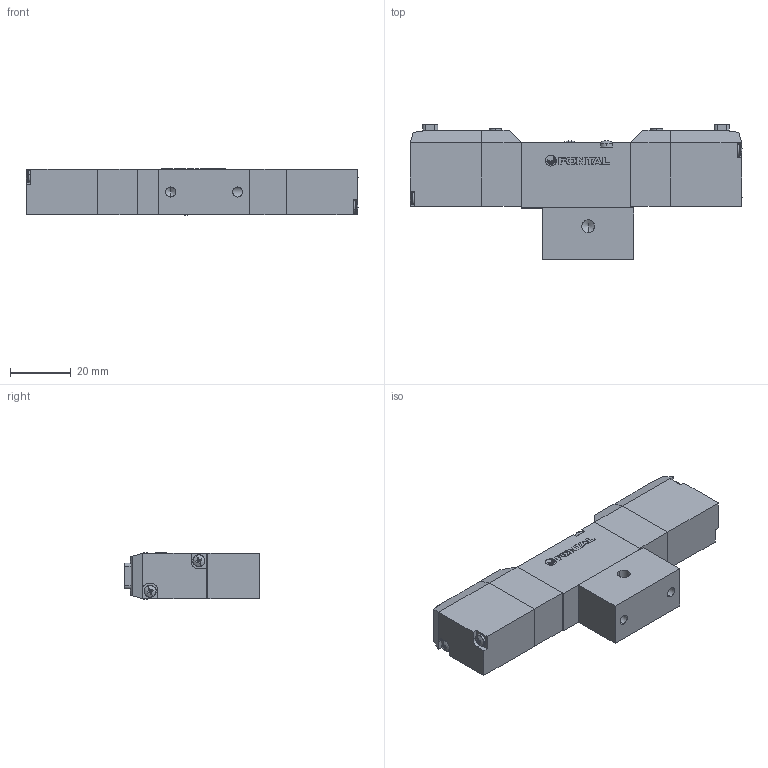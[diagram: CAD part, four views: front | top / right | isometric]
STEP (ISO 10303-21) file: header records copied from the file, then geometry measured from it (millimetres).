
FILE_DESCRIPTION (( 'STEP AP203' ), '1' );
FILE_NAME ('PCD345#-M5-#-U-#.STEP', '2016-02-04T03:46:27', ( 'Sam Lin' ), ( '' ), 'SwSTEP 2.0', 'SolidWorks 2013', '' );
FILE_SCHEMA (( 'CONFIG_CONTROL_DESIGN' ));
Length unit declared in the file: metre
Products named in the file (9): PC5-5; PC-MARK; PC5-6; PC5-4; ISO 7045 - M2 x 10; ISO 7045 - M2.5 x 25; PC5-9-345-U; PCD345#-M5-#-U-#; PC5-1
Assembly tree (15 placements, depth 2):
  PCD345#-M5-#-U-#
    PC5-1
    PC5-5  x2
    PC-MARK
    PC5-6  x2
    PC5-4  x2
    ISO 7045 - M2 x 10  x4
    ISO 7045 - M2.5 x 25  x2
    PC5-9-345-U
Bounding box: 109.14 x 44.5 x 15.4 mm (x, y, z)
Volume: 44609.4 mm3; surface area: 17337.4 mm2
Topology: 21 solids, 21 shells, 515 faces, 1261 edges, 783 vertices
Faces by surface type: plane 289, cylinder 107, cone 75, bspline 44
Entity records: 9974 total; most frequent: CARTESIAN_POINT 2125, ORIENTED_EDGE 1398, DIRECTION 1373, EDGE_CURVE 699, AXIS2_PLACEMENT_3D 478, VERTEX_POINT 450, VECTOR 417, LINE 417
